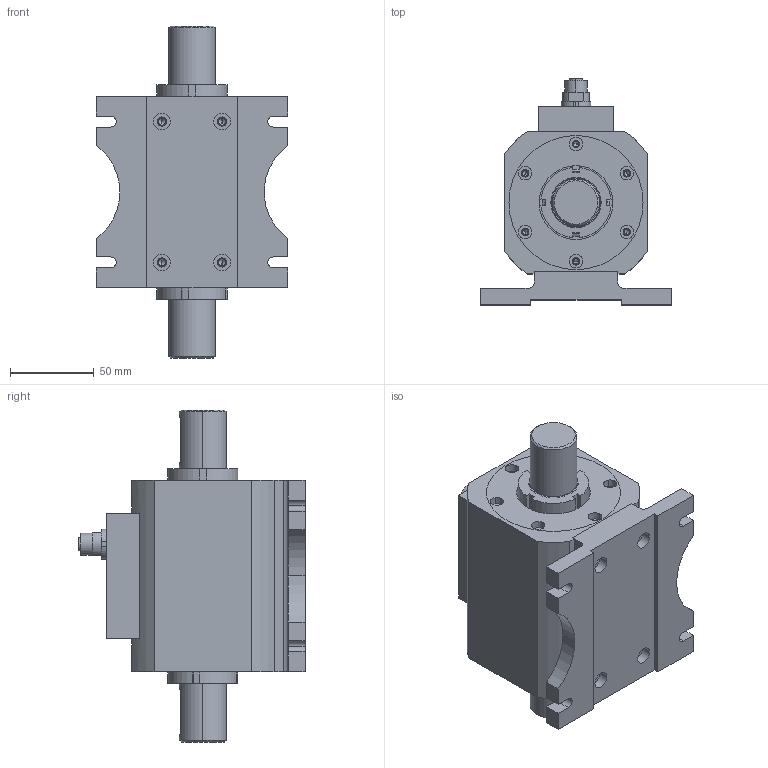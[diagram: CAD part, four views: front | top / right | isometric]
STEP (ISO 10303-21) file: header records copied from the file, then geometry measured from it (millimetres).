
FILE_DESCRIPTION (( 'STEP AP214' ), '1' );
FILE_NAME ('WTQ-2052×°Åä.STEP', '2023-03-28T07:42:11', ( '' ), ( '' ), 'SwSTEP 2.0', 'SolidWorks 2014', '' );
FILE_SCHEMA (( 'AUTOMOTIVE_DESIGN' ));
Length unit declared in the file: millimetre
Products named in the file (21): WTQ-2052轴套外挡圈; WTQ-2052粣結1; WTQ-2052线圈架3; WTQ-2052线圈架; WTQ-2052线圈隔离环2; WTQ-2052线圈3壳; WTQ-2052线圈2壳; WTQ-2052线圈2垫块; WTQ-2052线圈1壳; WTQ-2052线圈1垫块; WTQ-2052俋褲; WTQ-2052路燭遠1; WTQ-2052傷裔; WTQ-2052粟俶粣; 醱啣; WTQ-2052菁釱; WTQ-2052蚾饜; WTQ-2052粣結2; WTQ-205X炵蹈奻裔; 瑤脣菁釱; 深沟球轴承6206_6206-Z
Assembly tree (24 placements, depth 2):
  WTQ-2052蚾饜
    WTQ-2052粟俶粣
    WTQ-2052傷裔  x2
    WTQ-2052路燭遠1
    WTQ-2052俋褲
    WTQ-2052线圈1垫块
    WTQ-2052线圈1壳
    WTQ-2052线圈2垫块
    WTQ-2052线圈2壳
    WTQ-2052线圈3壳  x2
    WTQ-2052线圈隔离环2
    WTQ-2052线圈架
    WTQ-2052线圈架3  x2
    WTQ-2052粣結1
    WTQ-2052轴套外挡圈
    深沟球轴承6206_6206-Z  x2
    瑤脣菁釱
    WTQ-205X炵蹈奻裔
    WTQ-2052粣結2
    WTQ-2052菁釱
    醱啣
Bounding box: 114 x 134.9 x 198 mm (x, y, z)
Volume: 894432.2 mm3; surface area: 270772.8 mm2
Topology: 55 solids, 55 shells, 2205 faces, 5937 edges, 3887 vertices
Faces by surface type: plane 848, cylinder 780, bspline 307, sphere 120, cone 94, torus 56
Entity records: 90379 total; most frequent: CARTESIAN_POINT 33385, ORIENTED_EDGE 10120, DIRECTION 8372, EDGE_CURVE 5060, VERTEX_POINT 3362, AXIS2_PLACEMENT_3D 2797, LINE 2778, VECTOR 2778
